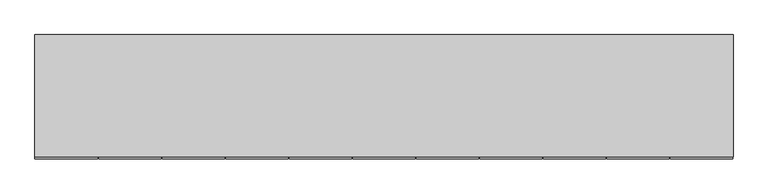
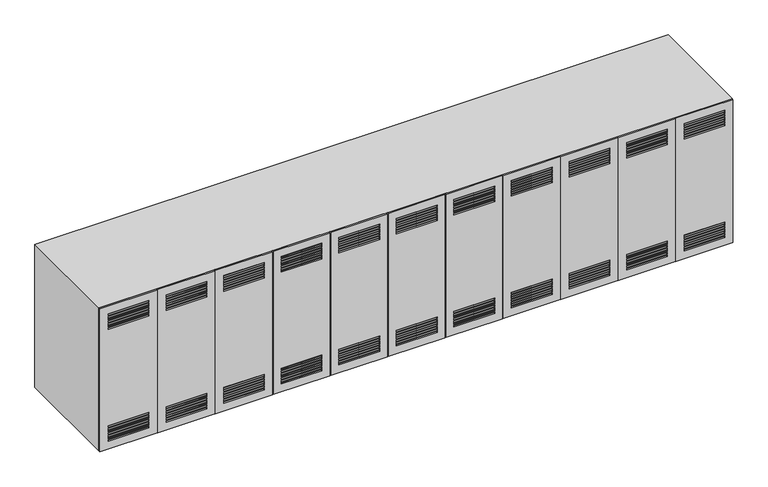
"""IFC4 building model written with IfcOpenShell, lengths in millimetres: furniture geometry, ARQ_NICHOS : ARQ_NICHOS."""

from ifc_helpers import new_model, si_unit, frame, origin, place, context, project, spatial, polyline, outline, extrude, faceted_brep, source, transform, mapped, element, save


def furniture_d1395fad(model_context):
    return source(origin(), model_context, "Body", "SolidModel", [
        faceted_brep([(-2755.2996736, -1350.0, 0.0), (-2755.2996736, 0.0, 0.0), (4944.7003264, 0.0, 0.0), (4944.7003264, -1350.0, 0.0), (-2755.2996736, -1350.0, 1840.0), (-2755.2996736, 0.0, 1840.0), (4944.7003264, 0.0, 1840.0), (4944.7003264, -1350.0, 1840.0), (3594.7003264, -1350.0, 100.0), (3594.7003264, -1350.0, 1740.0), (4844.7003264, -1350.0, 1740.0), (4844.7003264, -1350.0, 100.0), (-5.2996736, -1350.0, 100.0), (-2655.2996736, -1350.0, 100.0), (-2655.2996736, -1350.0, 1740.0), (-5.2996736, -1350.0, 1740.0), (94.7003264, -1350.0, 1740.0), (3494.7003264, -1350.0, 1740.0), (3494.7003264, -1350.0, 100.0), (94.7003264, -1350.0, 100.0), (3594.7003264, -100.0, 100.0), (3594.7003264, -100.0, 1740.0), (4844.7003264, -100.0, 1740.0), (4844.7003264, -100.0, 100.0), (-5.2996736, -100.0, 100.0), (-2655.2996736, -100.0, 100.0), (-2655.2996736, -100.0, 1740.0), (-5.2996736, -100.0, 1740.0), (3494.7003264, -100.0, 1740.0), (3494.7003264, -100.0, 100.0), (94.7003264, -100.0, 100.0), (94.7003264, -100.0, 1740.0)], [[[0, 1, 2, 3]], [[4, 5, 1, 0]], [[5, 6, 2, 1]], [[6, 7, 3, 2]], [[7, 4, 0, 3], [8, 9, 10, 11], [12, 13, 14, 15], [16, 17, 18, 19]], [[20, 21, 9, 8]], [[22, 23, 11, 10]], [[23, 20, 8, 11]], [[24, 25, 13, 12]], [[25, 26, 14, 13]], [[27, 24, 12, 15]], [[28, 29, 18, 17]], [[29, 30, 19, 18]], [[30, 31, 16, 19]], [[21, 20, 23, 22]], [[25, 24, 27, 26]], [[28, 31, 30, 29]], [[4, 7, 6, 5]], [[21, 22, 10, 9]], [[26, 27, 15, 14]], [[31, 28, 17, 16]]]),
        extrude(outline(polyline([(1840.0, -2050.2996736), (0.0, -2050.2996736), (0.0, -1360.2996736), (1840.0, -1360.2996736), (1840.0, -2050.2996736)]), holes=[polyline([(100.0, -1950.2996736), (120.0, -1950.2996736), (120.0, -1455.2996736), (100.0, -1455.2996736), (100.0, -1950.2996736)]), polyline([(130.0, -1950.2996736), (150.0, -1950.2996736), (150.0, -1455.2996736), (130.0, -1455.2996736), (130.0, -1950.2996736)]), polyline([(160.0, -1950.2996736), (180.0, -1950.2996736), (180.0, -1455.2996736), (160.0, -1455.2996736), (160.0, -1950.2996736)]), polyline([(190.0, -1950.2996736), (210.0, -1950.2996736), (210.0, -1455.2996736), (190.0, -1455.2996736), (190.0, -1950.2996736)]), polyline([(220.0, -1950.2996736), (240.0, -1950.2996736), (240.0, -1455.2996736), (220.0, -1455.2996736), (220.0, -1950.2996736)]), polyline([(250.0, -1950.2996736), (270.0, -1950.2996736), (270.0, -1455.2996736), (250.0, -1455.2996736), (250.0, -1950.2996736)]), polyline([(280.0, -1950.2996736), (300.0, -1950.2996736), (300.0, -1455.2996736), (280.0, -1455.2996736), (280.0, -1950.2996736)]), polyline([(1740.0, -1950.2996736), (1740.0, -1455.2996736), (1720.0, -1455.2996736), (1720.0, -1950.2996736), (1740.0, -1950.2996736)]), polyline([(1710.0, -1950.2996736), (1710.0, -1455.2996736), (1690.0, -1455.2996736), (1690.0, -1950.2996736), (1710.0, -1950.2996736)]), polyline([(1680.0, -1950.2996736), (1680.0, -1455.2996736), (1660.0, -1455.2996736), (1660.0, -1950.2996736), (1680.0, -1950.2996736)]), polyline([(1650.0, -1950.2996736), (1650.0, -1455.2996736), (1630.0, -1455.2996736), (1630.0, -1950.2996736), (1650.0, -1950.2996736)]), polyline([(1620.0, -1950.2996736), (1620.0, -1455.2996736), (1600.0, -1455.2996736), (1600.0, -1950.2996736), (1620.0, -1950.2996736)]), polyline([(1590.0, -1950.2996736), (1590.0, -1455.2996736), (1570.0, -1455.2996736), (1570.0, -1950.2996736), (1590.0, -1950.2996736)]), polyline([(1560.0, -1950.2996736), (1560.0, -1455.2996736), (1540.0, -1455.2996736), (1540.0, -1950.2996736), (1560.0, -1950.2996736)])]), frame((0.0, -1370.0, 0.0), z_axis=(0.0, 1.0, 0.0), x_axis=(0.0, 0.0, 1.0)), (0.0, 0.0, 1.0), 20.0),
        extrude(outline(polyline([(1840.0, -1350.2996736), (0.0, -1350.2996736), (0.0, -660.2996736), (1840.0, -660.2996736), (1840.0, -1350.2996736)]), holes=[polyline([(100.0, -1250.2996736), (120.0, -1250.2996736), (120.0, -755.2996736), (100.0, -755.2996736), (100.0, -1250.2996736)]), polyline([(130.0, -1250.2996736), (150.0, -1250.2996736), (150.0, -755.2996736), (130.0, -755.2996736), (130.0, -1250.2996736)]), polyline([(160.0, -1250.2996736), (180.0, -1250.2996736), (180.0, -755.2996736), (160.0, -755.2996736), (160.0, -1250.2996736)]), polyline([(190.0, -1250.2996736), (210.0, -1250.2996736), (210.0, -755.2996736), (190.0, -755.2996736), (190.0, -1250.2996736)]), polyline([(220.0, -1250.2996736), (240.0, -1250.2996736), (240.0, -755.2996736), (220.0, -755.2996736), (220.0, -1250.2996736)]), polyline([(250.0, -1250.2996736), (270.0, -1250.2996736), (270.0, -755.2996736), (250.0, -755.2996736), (250.0, -1250.2996736)]), polyline([(280.0, -1250.2996736), (300.0, -1250.2996736), (300.0, -755.2996736), (280.0, -755.2996736), (280.0, -1250.2996736)]), polyline([(1740.0, -1250.2996736), (1740.0, -755.2996736), (1720.0, -755.2996736), (1720.0, -1250.2996736), (1740.0, -1250.2996736)]), polyline([(1710.0, -1250.2996736), (1710.0, -755.2996736), (1690.0, -755.2996736), (1690.0, -1250.2996736), (1710.0, -1250.2996736)]), polyline([(1680.0, -1250.2996736), (1680.0, -755.2996736), (1660.0, -755.2996736), (1660.0, -1250.2996736), (1680.0, -1250.2996736)]), polyline([(1650.0, -1250.2996736), (1650.0, -755.2996736), (1630.0, -755.2996736), (1630.0, -1250.2996736), (1650.0, -1250.2996736)]), polyline([(1620.0, -1250.2996736), (1620.0, -755.2996736), (1600.0, -755.2996736), (1600.0, -1250.2996736), (1620.0, -1250.2996736)]), polyline([(1590.0, -1250.2996736), (1590.0, -755.2996736), (1570.0, -755.2996736), (1570.0, -1250.2996736), (1590.0, -1250.2996736)]), polyline([(1560.0, -1250.2996736), (1560.0, -755.2996736), (1540.0, -755.2996736), (1540.0, -1250.2996736), (1560.0, -1250.2996736)])]), frame((0.0, -1370.0, 0.0), z_axis=(0.0, 1.0, 0.0), x_axis=(0.0, 0.0, 1.0)), (0.0, 0.0, 1.0), 20.0),
        extrude(outline(polyline([(1840.0, -650.2996736), (0.0, -650.2996736), (0.0, 39.7003264), (1840.0, 39.7003264), (1840.0, -650.2996736)]), holes=[polyline([(100.0, -550.2996736), (120.0, -550.2996736), (120.0, -55.2996736), (100.0, -55.2996736), (100.0, -550.2996736)]), polyline([(130.0, -550.2996736), (150.0, -550.2996736), (150.0, -55.2996736), (130.0, -55.2996736), (130.0, -550.2996736)]), polyline([(160.0, -550.2996736), (180.0, -550.2996736), (180.0, -55.2996736), (160.0, -55.2996736), (160.0, -550.2996736)]), polyline([(190.0, -550.2996736), (210.0, -550.2996736), (210.0, -55.2996736), (190.0, -55.2996736), (190.0, -550.2996736)]), polyline([(220.0, -550.2996736), (240.0, -550.2996736), (240.0, -55.2996736), (220.0, -55.2996736), (220.0, -550.2996736)]), polyline([(250.0, -550.2996736), (270.0, -550.2996736), (270.0, -55.2996736), (250.0, -55.2996736), (250.0, -550.2996736)]), polyline([(280.0, -550.2996736), (300.0, -550.2996736), (300.0, -55.2996736), (280.0, -55.2996736), (280.0, -550.2996736)]), polyline([(1740.0, -550.2996736), (1740.0, -55.2996736), (1720.0, -55.2996736), (1720.0, -550.2996736), (1740.0, -550.2996736)]), polyline([(1710.0, -550.2996736), (1710.0, -55.2996736), (1690.0, -55.2996736), (1690.0, -550.2996736), (1710.0, -550.2996736)]), polyline([(1680.0, -550.2996736), (1680.0, -55.2996736), (1660.0, -55.2996736), (1660.0, -550.2996736), (1680.0, -550.2996736)]), polyline([(1650.0, -550.2996736), (1650.0, -55.2996736), (1630.0, -55.2996736), (1630.0, -550.2996736), (1650.0, -550.2996736)]), polyline([(1620.0, -550.2996736), (1620.0, -55.2996736), (1600.0, -55.2996736), (1600.0, -550.2996736), (1620.0, -550.2996736)]), polyline([(1590.0, -550.2996736), (1590.0, -55.2996736), (1570.0, -55.2996736), (1570.0, -550.2996736), (1590.0, -550.2996736)]), polyline([(1560.0, -550.2996736), (1560.0, -55.2996736), (1540.0, -55.2996736), (1540.0, -550.2996736), (1560.0, -550.2996736)])]), frame((0.0, -1370.0, 0.0), z_axis=(0.0, 1.0, 0.0), x_axis=(0.0, 0.0, 1.0)), (0.0, 0.0, 1.0), 20.0),
        extrude(outline(polyline([(1840.0, 49.7003264), (0.0, 49.7003264), (0.0, 739.7003264), (1840.0, 739.7003264), (1840.0, 49.7003264)]), holes=[polyline([(100.0, 149.7003264), (120.0, 149.7003264), (120.0, 644.7003264), (100.0, 644.7003264), (100.0, 149.7003264)]), polyline([(130.0, 149.7003264), (150.0, 149.7003264), (150.0, 644.7003264), (130.0, 644.7003264), (130.0, 149.7003264)]), polyline([(160.0, 149.7003264), (180.0, 149.7003264), (180.0, 644.7003264), (160.0, 644.7003264), (160.0, 149.7003264)]), polyline([(190.0, 149.7003264), (210.0, 149.7003264), (210.0, 644.7003264), (190.0, 644.7003264), (190.0, 149.7003264)]), polyline([(220.0, 149.7003264), (240.0, 149.7003264), (240.0, 644.7003264), (220.0, 644.7003264), (220.0, 149.7003264)]), polyline([(250.0, 149.7003264), (270.0, 149.7003264), (270.0, 644.7003264), (250.0, 644.7003264), (250.0, 149.7003264)]), polyline([(280.0, 149.7003264), (300.0, 149.7003264), (300.0, 644.7003264), (280.0, 644.7003264), (280.0, 149.7003264)]), polyline([(1740.0, 149.7003264), (1740.0, 644.7003264), (1720.0, 644.7003264), (1720.0, 149.7003264), (1740.0, 149.7003264)]), polyline([(1710.0, 149.7003264), (1710.0, 644.7003264), (1690.0, 644.7003264), (1690.0, 149.7003264), (1710.0, 149.7003264)]), polyline([(1680.0, 149.7003264), (1680.0, 644.7003264), (1660.0, 644.7003264), (1660.0, 149.7003264), (1680.0, 149.7003264)]), polyline([(1650.0, 149.7003264), (1650.0, 644.7003264), (1630.0, 644.7003264), (1630.0, 149.7003264), (1650.0, 149.7003264)]), polyline([(1620.0, 149.7003264), (1620.0, 644.7003264), (1600.0, 644.7003264), (1600.0, 149.7003264), (1620.0, 149.7003264)]), polyline([(1590.0, 149.7003264), (1590.0, 644.7003264), (1570.0, 644.7003264), (1570.0, 149.7003264), (1590.0, 149.7003264)]), polyline([(1560.0, 149.7003264), (1560.0, 644.7003264), (1540.0, 644.7003264), (1540.0, 149.7003264), (1560.0, 149.7003264)])]), frame((0.0, -1370.0, 0.0), z_axis=(0.0, 1.0, 0.0), x_axis=(0.0, 0.0, 1.0)), (0.0, 0.0, 1.0), 20.0),
        extrude(outline(polyline([(1840.0, 3549.7003264), (0.0, 3549.7003264), (0.0, 4239.7003264), (1840.0, 4239.7003264), (1840.0, 3549.7003264)]), holes=[polyline([(100.0, 3649.7003264), (120.0, 3649.7003264), (120.0, 4144.7003264), (100.0, 4144.7003264), (100.0, 3649.7003264)]), polyline([(130.0, 3649.7003264), (150.0, 3649.7003264), (150.0, 4144.7003264), (130.0, 4144.7003264), (130.0, 3649.7003264)]), polyline([(160.0, 3649.7003264), (180.0, 3649.7003264), (180.0, 4144.7003264), (160.0, 4144.7003264), (160.0, 3649.7003264)]), polyline([(190.0, 3649.7003264), (210.0, 3649.7003264), (210.0, 4144.7003264), (190.0, 4144.7003264), (190.0, 3649.7003264)]), polyline([(220.0, 3649.7003264), (240.0, 3649.7003264), (240.0, 4144.7003264), (220.0, 4144.7003264), (220.0, 3649.7003264)]), polyline([(250.0, 3649.7003264), (270.0, 3649.7003264), (270.0, 4144.7003264), (250.0, 4144.7003264), (250.0, 3649.7003264)]), polyline([(280.0, 3649.7003264), (300.0, 3649.7003264), (300.0, 4144.7003264), (280.0, 4144.7003264), (280.0, 3649.7003264)]), polyline([(1740.0, 3649.7003264), (1740.0, 4144.7003264), (1720.0, 4144.7003264), (1720.0, 3649.7003264), (1740.0, 3649.7003264)]), polyline([(1710.0, 3649.7003264), (1710.0, 4144.7003264), (1690.0, 4144.7003264), (1690.0, 3649.7003264), (1710.0, 3649.7003264)]), polyline([(1680.0, 3649.7003264), (1680.0, 4144.7003264), (1660.0, 4144.7003264), (1660.0, 3649.7003264), (1680.0, 3649.7003264)]), polyline([(1650.0, 3649.7003264), (1650.0, 4144.7003264), (1630.0, 4144.7003264), (1630.0, 3649.7003264), (1650.0, 3649.7003264)]), polyline([(1620.0, 3649.7003264), (1620.0, 4144.7003264), (1600.0, 4144.7003264), (1600.0, 3649.7003264), (1620.0, 3649.7003264)]), polyline([(1590.0, 3649.7003264), (1590.0, 4144.7003264), (1570.0, 4144.7003264), (1570.0, 3649.7003264), (1590.0, 3649.7003264)]), polyline([(1560.0, 3649.7003264), (1560.0, 4144.7003264), (1540.0, 4144.7003264), (1540.0, 3649.7003264), (1560.0, 3649.7003264)])]), frame((0.0, -1370.0, 0.0), z_axis=(0.0, 1.0, 0.0), x_axis=(0.0, 0.0, 1.0)), (0.0, 0.0, 1.0), 20.0),
        extrude(outline(polyline([(1840.0, 4249.7003264), (0.0, 4249.7003264), (0.0, 4939.7003264), (1840.0, 4939.7003264), (1840.0, 4249.7003264)]), holes=[polyline([(100.0, 4349.7003264), (120.0, 4349.7003264), (120.0, 4844.7003264), (100.0, 4844.7003264), (100.0, 4349.7003264)]), polyline([(130.0, 4349.7003264), (150.0, 4349.7003264), (150.0, 4844.7003264), (130.0, 4844.7003264), (130.0, 4349.7003264)]), polyline([(160.0, 4349.7003264), (180.0, 4349.7003264), (180.0, 4844.7003264), (160.0, 4844.7003264), (160.0, 4349.7003264)]), polyline([(190.0, 4349.7003264), (210.0, 4349.7003264), (210.0, 4844.7003264), (190.0, 4844.7003264), (190.0, 4349.7003264)]), polyline([(220.0, 4349.7003264), (240.0, 4349.7003264), (240.0, 4844.7003264), (220.0, 4844.7003264), (220.0, 4349.7003264)]), polyline([(250.0, 4349.7003264), (270.0, 4349.7003264), (270.0, 4844.7003264), (250.0, 4844.7003264), (250.0, 4349.7003264)]), polyline([(280.0, 4349.7003264), (300.0, 4349.7003264), (300.0, 4844.7003264), (280.0, 4844.7003264), (280.0, 4349.7003264)]), polyline([(1740.0, 4349.7003264), (1740.0, 4844.7003264), (1720.0, 4844.7003264), (1720.0, 4349.7003264), (1740.0, 4349.7003264)]), polyline([(1710.0, 4349.7003264), (1710.0, 4844.7003264), (1690.0, 4844.7003264), (1690.0, 4349.7003264), (1710.0, 4349.7003264)]), polyline([(1680.0, 4349.7003264), (1680.0, 4844.7003264), (1660.0, 4844.7003264), (1660.0, 4349.7003264), (1680.0, 4349.7003264)]), polyline([(1650.0, 4349.7003264), (1650.0, 4844.7003264), (1630.0, 4844.7003264), (1630.0, 4349.7003264), (1650.0, 4349.7003264)]), polyline([(1620.0, 4349.7003264), (1620.0, 4844.7003264), (1600.0, 4844.7003264), (1600.0, 4349.7003264), (1620.0, 4349.7003264)]), polyline([(1590.0, 4349.7003264), (1590.0, 4844.7003264), (1570.0, 4844.7003264), (1570.0, 4349.7003264), (1590.0, 4349.7003264)]), polyline([(1560.0, 4349.7003264), (1560.0, 4844.7003264), (1540.0, 4844.7003264), (1540.0, 4349.7003264), (1560.0, 4349.7003264)])]), frame((0.0, -1370.0, 0.0), z_axis=(0.0, 1.0, 0.0), x_axis=(0.0, 0.0, 1.0)), (0.0, 0.0, 1.0), 20.0),
        extrude(outline(polyline([(1840.0, -2060.2996736), (1840.0, -2755.2996736), (0.0, -2755.2996736), (0.0, -2060.2996736), (1840.0, -2060.2996736)]), holes=[polyline([(100.0, -2160.2996736), (100.0, -2655.2996736), (120.0, -2655.2996736), (120.0, -2160.2996736), (100.0, -2160.2996736)]), polyline([(130.0, -2160.2996736), (130.0, -2655.2996736), (150.0, -2655.2996736), (150.0, -2160.2996736), (130.0, -2160.2996736)]), polyline([(160.0, -2160.2996736), (160.0, -2655.2996736), (180.0, -2655.2996736), (180.0, -2160.2996736), (160.0, -2160.2996736)]), polyline([(190.0, -2160.2996736), (190.0, -2655.2996736), (210.0, -2655.2996736), (210.0, -2160.2996736), (190.0, -2160.2996736)]), polyline([(220.0, -2160.2996736), (220.0, -2655.2996736), (240.0, -2655.2996736), (240.0, -2160.2996736), (220.0, -2160.2996736)]), polyline([(250.0, -2160.2996736), (250.0, -2655.2996736), (270.0, -2655.2996736), (270.0, -2160.2996736), (250.0, -2160.2996736)]), polyline([(280.0, -2160.2996736), (280.0, -2655.2996736), (300.0, -2655.2996736), (300.0, -2160.2996736), (280.0, -2160.2996736)]), polyline([(1740.0, -2160.2996736), (1720.0, -2160.2996736), (1720.0, -2655.2996736), (1740.0, -2655.2996736), (1740.0, -2160.2996736)]), polyline([(1710.0, -2160.2996736), (1690.0, -2160.2996736), (1690.0, -2655.2996736), (1710.0, -2655.2996736), (1710.0, -2160.2996736)]), polyline([(1680.0, -2160.2996736), (1660.0, -2160.2996736), (1660.0, -2655.2996736), (1680.0, -2655.2996736), (1680.0, -2160.2996736)]), polyline([(1650.0, -2160.2996736), (1630.0, -2160.2996736), (1630.0, -2655.2996736), (1650.0, -2655.2996736), (1650.0, -2160.2996736)]), polyline([(1620.0, -2160.2996736), (1600.0, -2160.2996736), (1600.0, -2655.2996736), (1620.0, -2655.2996736), (1620.0, -2160.2996736)]), polyline([(1590.0, -2160.2996736), (1570.0, -2160.2996736), (1570.0, -2655.2996736), (1590.0, -2655.2996736), (1590.0, -2160.2996736)]), polyline([(1560.0, -2160.2996736), (1540.0, -2160.2996736), (1540.0, -2655.2996736), (1560.0, -2655.2996736), (1560.0, -2160.2996736)])]), frame((0.0, -1370.0, 0.0), z_axis=(0.0, 1.0, 0.0), x_axis=(0.0, 0.0, 1.0)), (0.0, 0.0, 1.0), 20.0),
        extrude(outline(polyline([(0.0, 749.7003264), (0.0, 1439.7003264), (1840.0, 1439.7003264), (1840.0, 749.7003264), (0.0, 749.7003264)]), holes=[polyline([(100.0, 849.7003264), (120.0, 849.7003264), (120.0, 1344.7003264), (100.0, 1344.7003264), (100.0, 849.7003264)]), polyline([(130.0, 849.7003264), (150.0, 849.7003264), (150.0, 1344.7003264), (130.0, 1344.7003264), (130.0, 849.7003264)]), polyline([(160.0, 849.7003264), (180.0, 849.7003264), (180.0, 1344.7003264), (160.0, 1344.7003264), (160.0, 849.7003264)]), polyline([(190.0, 849.7003264), (210.0, 849.7003264), (210.0, 1344.7003264), (190.0, 1344.7003264), (190.0, 849.7003264)]), polyline([(220.0, 849.7003264), (240.0, 849.7003264), (240.0, 1344.7003264), (220.0, 1344.7003264), (220.0, 849.7003264)]), polyline([(250.0, 849.7003264), (270.0, 849.7003264), (270.0, 1344.7003264), (250.0, 1344.7003264), (250.0, 849.7003264)]), polyline([(280.0, 849.7003264), (300.0, 849.7003264), (300.0, 1344.7003264), (280.0, 1344.7003264), (280.0, 849.7003264)]), polyline([(1740.0, 849.7003264), (1740.0, 1344.7003264), (1720.0, 1344.7003264), (1720.0, 849.7003264), (1740.0, 849.7003264)]), polyline([(1710.0, 849.7003264), (1710.0, 1344.7003264), (1690.0, 1344.7003264), (1690.0, 849.7003264), (1710.0, 849.7003264)]), polyline([(1680.0, 849.7003264), (1680.0, 1344.7003264), (1660.0, 1344.7003264), (1660.0, 849.7003264), (1680.0, 849.7003264)]), polyline([(1650.0, 849.7003264), (1650.0, 1344.7003264), (1630.0, 1344.7003264), (1630.0, 849.7003264), (1650.0, 849.7003264)]), polyline([(1620.0, 849.7003264), (1620.0, 1344.7003264), (1600.0, 1344.7003264), (1600.0, 849.7003264), (1620.0, 849.7003264)]), polyline([(1590.0, 849.7003264), (1590.0, 1344.7003264), (1570.0, 1344.7003264), (1570.0, 849.7003264), (1590.0, 849.7003264)]), polyline([(1560.0, 849.7003264), (1560.0, 1344.7003264), (1540.0, 1344.7003264), (1540.0, 849.7003264), (1560.0, 849.7003264)])]), frame((0.0, -1370.0, 0.0), z_axis=(0.0, 1.0, 0.0), x_axis=(0.0, 0.0, 1.0)), (0.0, 0.0, 1.0), 20.0),
        extrude(outline(polyline([(0.0, 1449.7003264), (0.0, 2139.7003264), (1840.0, 2139.7003264), (1840.0, 1449.7003264), (0.0, 1449.7003264)]), holes=[polyline([(100.0, 1549.7003264), (120.0, 1549.7003264), (120.0, 2044.7003264), (100.0, 2044.7003264), (100.0, 1549.7003264)]), polyline([(130.0, 1549.7003264), (150.0, 1549.7003264), (150.0, 2044.7003264), (130.0, 2044.7003264), (130.0, 1549.7003264)]), polyline([(160.0, 1549.7003264), (180.0, 1549.7003264), (180.0, 2044.7003264), (160.0, 2044.7003264), (160.0, 1549.7003264)]), polyline([(190.0, 1549.7003264), (210.0, 1549.7003264), (210.0, 2044.7003264), (190.0, 2044.7003264), (190.0, 1549.7003264)]), polyline([(220.0, 1549.7003264), (240.0, 1549.7003264), (240.0, 2044.7003264), (220.0, 2044.7003264), (220.0, 1549.7003264)]), polyline([(250.0, 1549.7003264), (270.0, 1549.7003264), (270.0, 2044.7003264), (250.0, 2044.7003264), (250.0, 1549.7003264)]), polyline([(280.0, 1549.7003264), (300.0, 1549.7003264), (300.0, 2044.7003264), (280.0, 2044.7003264), (280.0, 1549.7003264)]), polyline([(1740.0, 1549.7003264), (1740.0, 2044.7003264), (1720.0, 2044.7003264), (1720.0, 1549.7003264), (1740.0, 1549.7003264)]), polyline([(1710.0, 1549.7003264), (1710.0, 2044.7003264), (1690.0, 2044.7003264), (1690.0, 1549.7003264), (1710.0, 1549.7003264)]), polyline([(1680.0, 1549.7003264), (1680.0, 2044.7003264), (1660.0, 2044.7003264), (1660.0, 1549.7003264), (1680.0, 1549.7003264)]), polyline([(1650.0, 1549.7003264), (1650.0, 2044.7003264), (1630.0, 2044.7003264), (1630.0, 1549.7003264), (1650.0, 1549.7003264)]), polyline([(1620.0, 1549.7003264), (1620.0, 2044.7003264), (1600.0, 2044.7003264), (1600.0, 1549.7003264), (1620.0, 1549.7003264)]), polyline([(1590.0, 1549.7003264), (1590.0, 2044.7003264), (1570.0, 2044.7003264), (1570.0, 1549.7003264), (1590.0, 1549.7003264)]), polyline([(1560.0, 1549.7003264), (1560.0, 2044.7003264), (1540.0, 2044.7003264), (1540.0, 1549.7003264), (1560.0, 1549.7003264)])]), frame((0.0, -1370.0, 0.0), z_axis=(0.0, 1.0, 0.0), x_axis=(0.0, 0.0, 1.0)), (0.0, 0.0, 1.0), 20.0),
        extrude(outline(polyline([(0.0, 2149.7003264), (0.0, 2839.7003264), (1840.0, 2839.7003264), (1840.0, 2149.7003264), (0.0, 2149.7003264)]), holes=[polyline([(100.0, 2249.7003264), (120.0, 2249.7003264), (120.0, 2744.7003264), (100.0, 2744.7003264), (100.0, 2249.7003264)]), polyline([(130.0, 2249.7003264), (150.0, 2249.7003264), (150.0, 2744.7003264), (130.0, 2744.7003264), (130.0, 2249.7003264)]), polyline([(160.0, 2249.7003264), (180.0, 2249.7003264), (180.0, 2744.7003264), (160.0, 2744.7003264), (160.0, 2249.7003264)]), polyline([(190.0, 2249.7003264), (210.0, 2249.7003264), (210.0, 2744.7003264), (190.0, 2744.7003264), (190.0, 2249.7003264)]), polyline([(220.0, 2249.7003264), (240.0, 2249.7003264), (240.0, 2744.7003264), (220.0, 2744.7003264), (220.0, 2249.7003264)]), polyline([(250.0, 2249.7003264), (270.0, 2249.7003264), (270.0, 2744.7003264), (250.0, 2744.7003264), (250.0, 2249.7003264)]), polyline([(280.0, 2249.7003264), (300.0, 2249.7003264), (300.0, 2744.7003264), (280.0, 2744.7003264), (280.0, 2249.7003264)]), polyline([(1740.0, 2249.7003264), (1740.0, 2744.7003264), (1720.0, 2744.7003264), (1720.0, 2249.7003264), (1740.0, 2249.7003264)]), polyline([(1710.0, 2249.7003264), (1710.0, 2744.7003264), (1690.0, 2744.7003264), (1690.0, 2249.7003264), (1710.0, 2249.7003264)]), polyline([(1680.0, 2249.7003264), (1680.0, 2744.7003264), (1660.0, 2744.7003264), (1660.0, 2249.7003264), (1680.0, 2249.7003264)]), polyline([(1650.0, 2249.7003264), (1650.0, 2744.7003264), (1630.0, 2744.7003264), (1630.0, 2249.7003264), (1650.0, 2249.7003264)]), polyline([(1620.0, 2249.7003264), (1620.0, 2744.7003264), (1600.0, 2744.7003264), (1600.0, 2249.7003264), (1620.0, 2249.7003264)]), polyline([(1590.0, 2249.7003264), (1590.0, 2744.7003264), (1570.0, 2744.7003264), (1570.0, 2249.7003264), (1590.0, 2249.7003264)]), polyline([(1560.0, 2249.7003264), (1560.0, 2744.7003264), (1540.0, 2744.7003264), (1540.0, 2249.7003264), (1560.0, 2249.7003264)])]), frame((0.0, -1370.0, 0.0), z_axis=(0.0, 1.0, 0.0), x_axis=(0.0, 0.0, 1.0)), (0.0, 0.0, 1.0), 20.0),
        extrude(outline(polyline([(1840.0, 3539.7003264), (1840.0, 2849.7003264), (0.0, 2849.7003264), (0.0, 3539.7003264), (1840.0, 3539.7003264)]), holes=[polyline([(100.0, 2949.7003264), (120.0, 2949.7003264), (120.0, 3444.7003264), (100.0, 3444.7003264), (100.0, 2949.7003264)]), polyline([(130.0, 2949.7003264), (150.0, 2949.7003264), (150.0, 3444.7003264), (130.0, 3444.7003264), (130.0, 2949.7003264)]), polyline([(160.0, 2949.7003264), (180.0, 2949.7003264), (180.0, 3444.7003264), (160.0, 3444.7003264), (160.0, 2949.7003264)]), polyline([(190.0, 2949.7003264), (210.0, 2949.7003264), (210.0, 3444.7003264), (190.0, 3444.7003264), (190.0, 2949.7003264)]), polyline([(220.0, 2949.7003264), (240.0, 2949.7003264), (240.0, 3444.7003264), (220.0, 3444.7003264), (220.0, 2949.7003264)]), polyline([(250.0, 2949.7003264), (270.0, 2949.7003264), (270.0, 3444.7003264), (250.0, 3444.7003264), (250.0, 2949.7003264)]), polyline([(280.0, 2949.7003264), (300.0, 2949.7003264), (300.0, 3444.7003264), (280.0, 3444.7003264), (280.0, 2949.7003264)]), polyline([(1740.0, 2949.7003264), (1740.0, 3444.7003264), (1720.0, 3444.7003264), (1720.0, 2949.7003264), (1740.0, 2949.7003264)]), polyline([(1710.0, 2949.7003264), (1710.0, 3444.7003264), (1690.0, 3444.7003264), (1690.0, 2949.7003264), (1710.0, 2949.7003264)]), polyline([(1680.0, 2949.7003264), (1680.0, 3444.7003264), (1660.0, 3444.7003264), (1660.0, 2949.7003264), (1680.0, 2949.7003264)]), polyline([(1650.0, 2949.7003264), (1650.0, 3444.7003264), (1630.0, 3444.7003264), (1630.0, 2949.7003264), (1650.0, 2949.7003264)]), polyline([(1620.0, 2949.7003264), (1620.0, 3444.7003264), (1600.0, 3444.7003264), (1600.0, 2949.7003264), (1620.0, 2949.7003264)]), polyline([(1590.0, 2949.7003264), (1590.0, 3444.7003264), (1570.0, 3444.7003264), (1570.0, 2949.7003264), (1590.0, 2949.7003264)]), polyline([(1560.0, 2949.7003264), (1560.0, 3444.7003264), (1540.0, 3444.7003264), (1540.0, 2949.7003264), (1560.0, 2949.7003264)])]), frame((0.0, -1370.0, 0.0), z_axis=(0.0, 1.0, 0.0), x_axis=(0.0, 0.0, 1.0)), (0.0, 0.0, 1.0), 20.0),
    ])


if __name__ == "__main__":
    model = new_model("IFC4")
    model_context = context("Model", 3, world=origin())
    ifc_project = project(units=[si_unit("LENGTHUNIT", "METRE", prefix="MILLI")], contexts=[model_context])
    site = spatial("IfcSite", under=ifc_project)
    building = spatial("IfcBuilding", under=site)
    placement = place(None, origin())
    furniture_shape = furniture_d1395fad(model_context)
    element("IfcFurniture", 1, ObjectType="ARQ_NICHOS : ARQ_NICHOS", at=placement, inside=building, context=model_context, shape_type="MappedRepresentation", body=[
        mapped(furniture_shape, transform((0.0, 0.0, 0.0), x_axis=(1.0, 0.0, 0.0), y_axis=(0.0, 1.0, 0.0), z_axis=(0.0, 0.0, 1.0))),
    ])
    save(model, "model.ifc")
